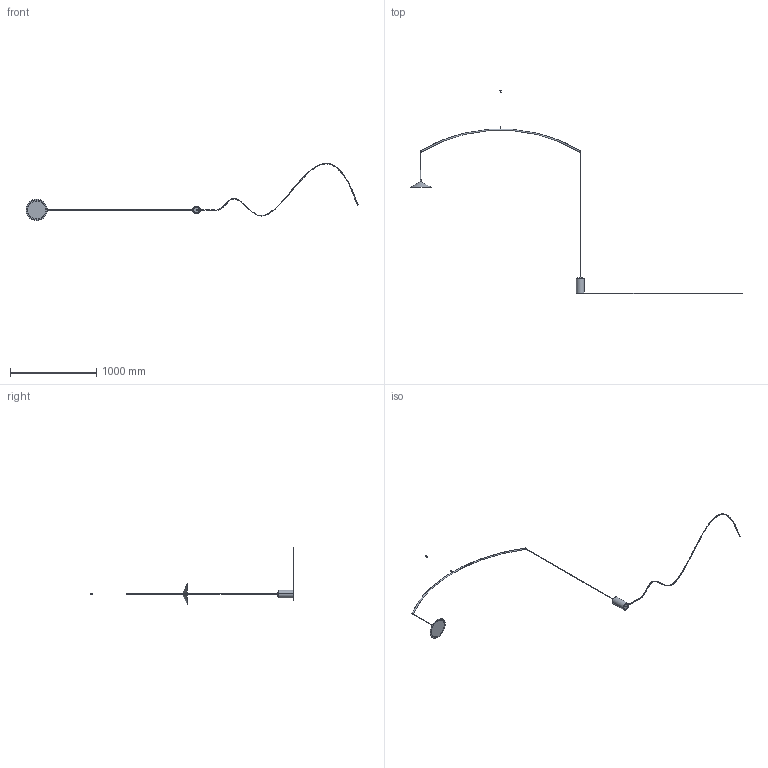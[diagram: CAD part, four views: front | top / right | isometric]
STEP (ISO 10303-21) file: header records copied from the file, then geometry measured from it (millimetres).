
FILE_DESCRIPTION((''),'2;1');
FILE_NAME('SOSPESA_SW0001','2025-05-15T09:18:23',('elena.baldelli'),(''),'CREO PARAMETRIC BY PTC INC, 2020354','CREO PARAMETRIC BY PTC INC, 2020354','');
FILE_SCHEMA(('CONFIG_CONTROL_DESIGN'));
Length unit declared in the file: millimetre
Products named in the file (1): SOSPESA_SW0001
Bounding box: 3859.77 x 2365.9 x 664.79 mm (x, y, z)
Surface area: 417578.6 mm2 (no closed solid volume)
Topology: 0 solids, 48 shells, 96 faces, 342 edges, 292 vertices
Faces by surface type: cylinder 49, plane 17, torus 15, cone 8, bspline 7
Entity records: 13169 total; most frequent: CARTESIAN_POINT 10283, DIRECTION 655, ORIENTED_EDGE 420, EDGE_CURVE 342, VERTEX_POINT 292, AXIS2_PLACEMENT_3D 276, CIRCLE 187, EDGE_LOOP 108
